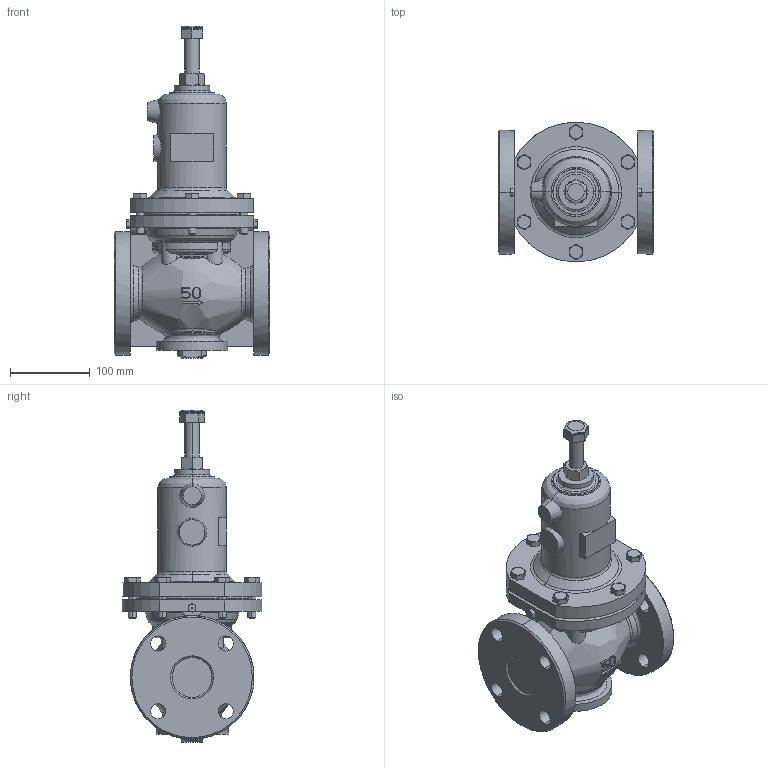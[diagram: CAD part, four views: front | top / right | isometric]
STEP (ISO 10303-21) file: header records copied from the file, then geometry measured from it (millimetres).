
FILE_DESCRIPTION( (''), '2;1');
FILE_NAME ('PC1056.10872.GD-200( 50A)_2449.stp','2024-09-12T17:59:14',(''),(''),'spGate 19.8.4 (****-****-****-****)','','');
FILE_SCHEMA (('AUTOMOTIVE_DESIGN'));
Length unit declared in the file: millimetre
Products named in the file (4): Assembly; GD-200(50A); GD-200(3250)保護筒; CP_''_JIS B 1181 六角ナット 2種 上 ''_700
Assembly tree (3 placements, depth 2):
  Assembly
    GD-200(50A)
    GD-200(3250)保護筒
    CP_''_JIS B 1181 六角ナット 2種 上 ''_700
Bounding box: 195 x 174.66 x 416.11 mm (x, y, z)
Volume: 3925831.4 mm3; surface area: 319467.9 mm2
Topology: 3 solids, 3 shells, 472 faces, 1208 edges, 776 vertices
Faces by surface type: bspline 190, plane 167, cylinder 115
Entity records: 29579 total; most frequent: CARTESIAN_POINT 10222, ORIENTED_EDGE 2416, COLOUR_RGB 1683, PRESENTATION_STYLE_ASSIGNMENT 1683, STYLED_ITEM 1683, DIRECTION 1611, EDGE_CURVE 1208, DRAUGHTING_PRE_DEFINED_CURVE_FONT 1208
